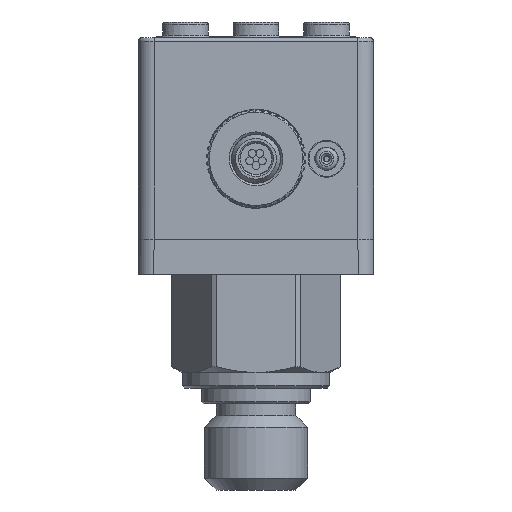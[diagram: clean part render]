
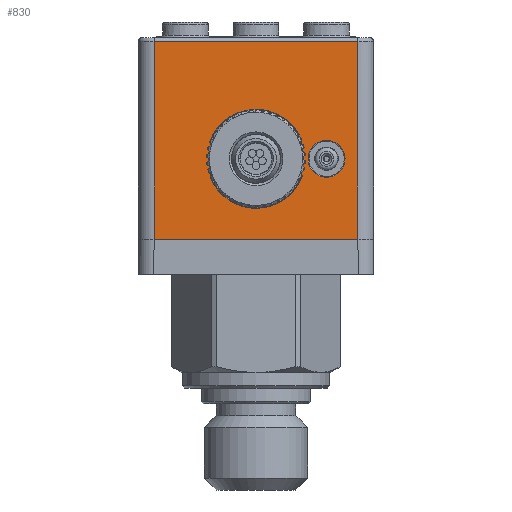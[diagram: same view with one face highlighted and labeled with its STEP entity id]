
A CAD part, front view. The second image highlights one B-rep face of the part: STEP entity #830.
In plain terms, the highlighted planar face has unit normal (0, -1, 0).
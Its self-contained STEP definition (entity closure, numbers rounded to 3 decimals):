
#830=ADVANCED_FACE('',(#2544,#2545,#2546),#2547,.T.);
#2544=FACE_OUTER_BOUND('',#8012,.T.);
#2545=FACE_BOUND('',#8013,.T.);
#2546=FACE_BOUND('',#8014,.T.);
#2547=PLANE('',#8015);
#8012=EDGE_LOOP('',(#15117,#15118,#15119,#15120));
#8013=EDGE_LOOP('',(#15121));
#8014=EDGE_LOOP('',(#15122,#15123,#15124,#15125,#15126,#15127,#15128,#15129,#15130,#15131));
#8015=AXIS2_PLACEMENT_3D('',#15132,#15133,#15134);
#15117=ORIENTED_EDGE('',*,*,#17424,.T.);
#15118=ORIENTED_EDGE('',*,*,#17570,.F.);
#15119=ORIENTED_EDGE('',*,*,#18414,.F.);
#15120=ORIENTED_EDGE('',*,*,#16761,.T.);
#15121=ORIENTED_EDGE('',*,*,#16820,.T.);
#15122=ORIENTED_EDGE('',*,*,#18091,.T.);
#15123=ORIENTED_EDGE('',*,*,#18549,.T.);
#15124=ORIENTED_EDGE('',*,*,#18554,.T.);
#15125=ORIENTED_EDGE('',*,*,#17694,.T.);
#15126=ORIENTED_EDGE('',*,*,#16311,.F.);
#15127=ORIENTED_EDGE('',*,*,#18555,.T.);
#15128=ORIENTED_EDGE('',*,*,#16475,.T.);
#15129=ORIENTED_EDGE('',*,*,#17704,.T.);
#15130=ORIENTED_EDGE('',*,*,#17547,.T.);
#15131=ORIENTED_EDGE('',*,*,#16275,.F.);
#15132=CARTESIAN_POINT('',(-15.,-15.,2.9));
#15133=DIRECTION('',(0.0,-1.0,0.0));
#15134=DIRECTION('',(0.0,0.0,-1.0));
#16275=EDGE_CURVE('',#18681,#18683,#18684,.T.);
#16311=EDGE_CURVE('',#18747,#18749,#18750,.T.);
#16475=EDGE_CURVE('',#19068,#19065,#19069,.T.);
#16761=EDGE_CURVE('',#19618,#19619,#19620,.T.);
#16820=EDGE_CURVE('',#19724,#19724,#19725,.T.);
#17424=EDGE_CURVE('',#19619,#20211,#20800,.T.);
#17547=EDGE_CURVE('',#21005,#18683,#21006,.T.);
#17570=EDGE_CURVE('',#21039,#20211,#21041,.T.);
#17694=EDGE_CURVE('',#21246,#18749,#21247,.T.);
#17704=EDGE_CURVE('',#19065,#21005,#21260,.T.);
#18091=EDGE_CURVE('',#18681,#21857,#21858,.T.);
#18414=EDGE_CURVE('',#19618,#21039,#22301,.T.);
#18549=EDGE_CURVE('',#21857,#22468,#22471,.T.);
#18554=EDGE_CURVE('',#22468,#21246,#22477,.T.);
#18555=EDGE_CURVE('',#18747,#19068,#22478,.T.);
#18681=VERTEX_POINT('',#22747);
#18683=VERTEX_POINT('',#22750);
#18684=CIRCLE('',#22751,6.3);
#18747=VERTEX_POINT('',#22986);
#18749=VERTEX_POINT('',#22989);
#18750=CIRCLE('',#22990,6.3);
#19065=VERTEX_POINT('',#23665);
#19068=VERTEX_POINT('',#23669);
#19069=LINE('',#23670,#23671);
#19618=VERTEX_POINT('',#24819);
#19619=VERTEX_POINT('',#24820);
#19620=LINE('',#24821,#24822);
#19724=VERTEX_POINT('',#25011);
#19725=CIRCLE('',#25012,2.357);
#20211=VERTEX_POINT('',#26159);
#20800=LINE('',#27542,#27543);
#21005=VERTEX_POINT('',#27915);
#21006=CIRCLE('',#27916,1.);
#21039=VERTEX_POINT('',#28005);
#21041=LINE('',#28007,#28008);
#21246=VERTEX_POINT('',#28623);
#21247=CIRCLE('',#28624,1.);
#21260=LINE('',#28652,#28653);
#21857=VERTEX_POINT('',#30102);
#21858=CIRCLE('',#30103,1.);
#22301=LINE('',#31302,#31303);
#22468=VERTEX_POINT('',#31700);
#22471=LINE('',#31704,#31705);
#22477=LINE('',#31715,#31716);
#22478=CIRCLE('',#31717,1.);
#22747=CARTESIAN_POINT('',(-5.657,-15.,11.977));
#22750=CARTESIAN_POINT('',(5.657,-15.,11.977));
#22751=AXIS2_PLACEMENT_3D('',#31954,#31955,#31956);
#22986=CARTESIAN_POINT('',(5.657,-15.,17.523));
#22989=CARTESIAN_POINT('',(-5.657,-15.,17.523));
#22990=AXIS2_PLACEMENT_3D('',#31981,#31982,#31983);
#23665=CARTESIAN_POINT('',(5.8,-15.,14.75));
#23669=CARTESIAN_POINT('',(5.759,-15.,17.1));
#23670=CARTESIAN_POINT('',(5.759,-15.,17.1));
#23671=VECTOR('',#32177,1.0);
#24819=CARTESIAN_POINT('',(-13.,-15.,29.7));
#24820=CARTESIAN_POINT('',(-13.,-15.,4.5));
#24821=CARTESIAN_POINT('',(-13.,-15.,29.7));
#24822=VECTOR('',#32560,1.0);
#25011=CARTESIAN_POINT('',(11.357,-15.,14.75));
#25012=AXIS2_PLACEMENT_3D('',#32629,#32630,#32631);
#26159=CARTESIAN_POINT('',(13.,-15.,4.5));
#27542=CARTESIAN_POINT('',(-13.,-15.,4.5));
#27543=VECTOR('',#33370,1.0);
#27915=CARTESIAN_POINT('',(5.759,-15.,12.4));
#27916=AXIS2_PLACEMENT_3D('',#33551,#33552,#33553);
#28005=CARTESIAN_POINT('',(13.,-15.,29.7));
#28007=CARTESIAN_POINT('',(13.,-15.,29.7));
#28008=VECTOR('',#33586,1.0);
#28623=CARTESIAN_POINT('',(-5.759,-15.,17.1));
#28624=AXIS2_PLACEMENT_3D('',#33728,#33729,#33730);
#28652=CARTESIAN_POINT('',(5.8,-15.,14.75));
#28653=VECTOR('',#33739,1.0);
#30102=CARTESIAN_POINT('',(-5.759,-15.,12.4));
#30103=AXIS2_PLACEMENT_3D('',#34240,#34241,#34242);
#31302=CARTESIAN_POINT('',(-13.,-15.,29.7));
#31303=VECTOR('',#34663,1.0);
#31700=CARTESIAN_POINT('',(-5.8,-15.,14.75));
#31704=CARTESIAN_POINT('',(-5.759,-15.,12.4));
#31705=VECTOR('',#34853,1.0);
#31715=CARTESIAN_POINT('',(-5.8,-15.,14.75));
#31716=VECTOR('',#34858,1.0);
#31717=AXIS2_PLACEMENT_3D('',#34859,#34860,#34861);
#31954=CARTESIAN_POINT('',(0.0,-15.,14.75));
#31955=DIRECTION('',(0.0,-1.0,-0.0));
#31956=DIRECTION('',(-0.898,0.0,-0.44));
#31981=CARTESIAN_POINT('',(0.0,-15.,14.75));
#31982=DIRECTION('',(0.0,-1.0,0.0));
#31983=DIRECTION('',(0.898,0.0,0.44));
#32177=DIRECTION('',(0.017,0.0,-1.));
#32560=DIRECTION('',(0.,0.,-1.));
#32629=CARTESIAN_POINT('',(9.,-15.,14.75));
#32630=DIRECTION('',(-0.0,1.0,0.0));
#32631=DIRECTION('',(1.0,0.0,0.0));
#33370=DIRECTION('',(1.0,0.0,0.0));
#33551=CARTESIAN_POINT('',(4.759,-15.,12.417));
#33552=DIRECTION('',(0.0,1.0,0.0));
#33553=DIRECTION('',(1.,0.0,-0.017));
#33586=DIRECTION('',(0.,0.,-1.));
#33728=CARTESIAN_POINT('',(-4.759,-15.,17.083));
#33729=DIRECTION('',(0.0,1.0,0.0));
#33730=DIRECTION('',(-1.,0.0,0.017));
#33739=DIRECTION('',(-0.017,0.0,-1.));
#34240=CARTESIAN_POINT('',(-4.759,-15.,12.417));
#34241=DIRECTION('',(0.0,1.0,0.0));
#34242=DIRECTION('',(-0.898,0.0,-0.44));
#34663=DIRECTION('',(1.0,0.0,0.0));
#34853=DIRECTION('',(-0.017,0.0,1.));
#34858=DIRECTION('',(0.017,0.0,1.));
#34859=CARTESIAN_POINT('',(4.759,-15.,17.083));
#34860=DIRECTION('',(-0.0,1.0,0.0));
#34861=DIRECTION('',(0.898,0.0,0.44));
